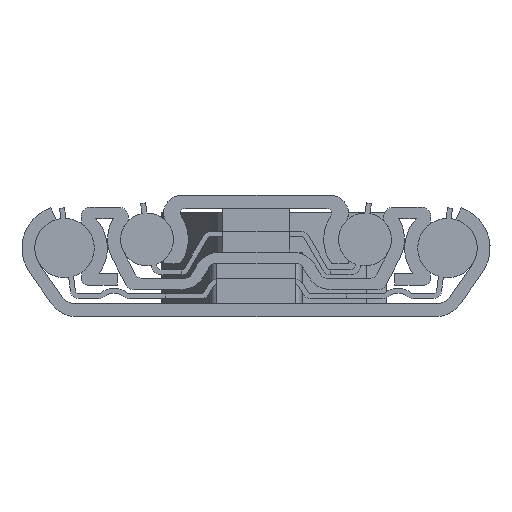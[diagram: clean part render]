
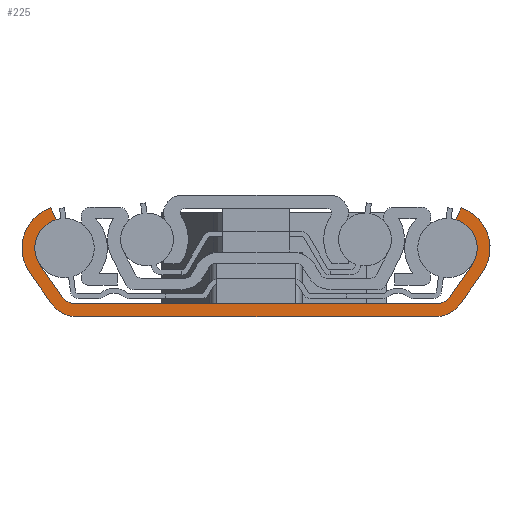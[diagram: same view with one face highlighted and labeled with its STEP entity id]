
A CAD part, left-side view. The second image highlights one B-rep face of the part: STEP entity #225.
In plain terms, the highlighted planar face has unit normal (-1, 0, 0).
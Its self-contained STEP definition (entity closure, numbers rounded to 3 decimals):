
#225 = ADVANCED_FACE( '', ( #571 ), #572, .F. );
#571 = FACE_OUTER_BOUND( '', #1245, .T. );
#572 = PLANE( '', #1246 );
#1245 = EDGE_LOOP( '', ( #2043, #2044, #2045, #2046, #2047, #2048, #2049, #2050, #2051, #2052, #2053, #2054, #2055, #2056, #2057, #2058 ) );
#1246 = AXIS2_PLACEMENT_3D( '', #2059, #2060, #2061 );
#2043 = ORIENTED_EDGE( '', *, *, #4623, .F. );
#2044 = ORIENTED_EDGE( '', *, *, #4632, .T. );
#2045 = ORIENTED_EDGE( '', *, *, #4629, .F. );
#2046 = ORIENTED_EDGE( '', *, *, #4626, .T. );
#2047 = ORIENTED_EDGE( '', *, *, #4572, .F. );
#2048 = ORIENTED_EDGE( '', *, *, #4594, .T. );
#2049 = ORIENTED_EDGE( '', *, *, #4597, .F. );
#2050 = ORIENTED_EDGE( '', *, *, #4600, .T. );
#2051 = ORIENTED_EDGE( '', *, *, #4603, .F. );
#2052 = ORIENTED_EDGE( '', *, *, #4606, .F. );
#2053 = ORIENTED_EDGE( '', *, *, #4609, .F. );
#2054 = ORIENTED_EDGE( '', *, *, #4612, .F. );
#2055 = ORIENTED_EDGE( '', *, *, #4587, .F. );
#2056 = ORIENTED_EDGE( '', *, *, #4614, .F. );
#2057 = ORIENTED_EDGE( '', *, *, #4617, .F. );
#2058 = ORIENTED_EDGE( '', *, *, #4620, .F. );
#2059 = CARTESIAN_POINT( '', ( 0., -29., 10.4 ) );
#2060 = DIRECTION( '', ( 1., 0., 0. ) );
#2061 = DIRECTION( '', ( 0., 0., -1. ) );
#4572 = EDGE_CURVE( '', #5480, #5481, #5482, .T. );
#4587 = EDGE_CURVE( '', #5508, #5509, #5510, .T. );
#4594 = EDGE_CURVE( '', #5480, #5521, #5522, .T. );
#4597 = EDGE_CURVE( '', #5526, #5521, #5527, .T. );
#4600 = EDGE_CURVE( '', #5526, #5531, #5532, .T. );
#4603 = EDGE_CURVE( '', #5536, #5531, #5537, .T. );
#4606 = EDGE_CURVE( '', #5541, #5536, #5542, .T. );
#4609 = EDGE_CURVE( '', #5546, #5541, #5547, .T. );
#4612 = EDGE_CURVE( '', #5509, #5546, #5551, .T. );
#4614 = EDGE_CURVE( '', #5553, #5508, #5554, .T. );
#4617 = EDGE_CURVE( '', #5558, #5553, #5559, .T. );
#4620 = EDGE_CURVE( '', #5563, #5558, #5564, .T. );
#4623 = EDGE_CURVE( '', #5568, #5563, #5569, .T. );
#4626 = EDGE_CURVE( '', #5573, #5481, #5574, .T. );
#4629 = EDGE_CURVE( '', #5573, #5578, #5579, .T. );
#4632 = EDGE_CURVE( '', #5568, #5578, #5583, .T. );
#5480 = VERTEX_POINT( '', #6964 );
#5481 = VERTEX_POINT( '', #6965 );
#5482 = LINE( '', #6966, #6967 );
#5508 = VERTEX_POINT( '', #7001 );
#5509 = VERTEX_POINT( '', #7002 );
#5510 = LINE( '', #7003, #7004 );
#5521 = VERTEX_POINT( '', #7021 );
#5522 = CIRCLE( '', #7022, 2.25 );
#5526 = VERTEX_POINT( '', #7027 );
#5527 = LINE( '', #7028, #7029 );
#5531 = VERTEX_POINT( '', #7035 );
#5532 = CIRCLE( '', #7036, 4.5 );
#5536 = VERTEX_POINT( '', #7041 );
#5537 = LINE( '', #7042, #7043 );
#5541 = VERTEX_POINT( '', #7049 );
#5542 = CIRCLE( '', #7050, 6.45 );
#5546 = VERTEX_POINT( '', #7055 );
#5547 = LINE( '', #7056, #7057 );
#5551 = CIRCLE( '', #7063, 4.75 );
#5553 = VERTEX_POINT( '', #7065 );
#5554 = CIRCLE( '', #7066, 4.75 );
#5558 = VERTEX_POINT( '', #7071 );
#5559 = LINE( '', #7072, #7073 );
#5563 = VERTEX_POINT( '', #7079 );
#5564 = CIRCLE( '', #7080, 6.45 );
#5568 = VERTEX_POINT( '', #7085 );
#5569 = LINE( '', #7086, #7087 );
#5573 = VERTEX_POINT( '', #7093 );
#5574 = CIRCLE( '', #7094, 2.25 );
#5578 = VERTEX_POINT( '', #7099 );
#5579 = LINE( '', #7100, #7101 );
#5583 = CIRCLE( '', #7107, 4.5 );
#6964 = CARTESIAN_POINT( '', ( 0., 27.44, 2. ) );
#6965 = CARTESIAN_POINT( '', ( 0., -27.44, 2. ) );
#6966 = CARTESIAN_POINT( '', ( 0., 27.44, 2. ) );
#6967 = VECTOR( '', #9002, 1000. );
#7001 = CARTESIAN_POINT( '', ( 0., -27.119, 0. ) );
#7002 = CARTESIAN_POINT( '', ( 0., 27.119, 0. ) );
#7003 = CARTESIAN_POINT( '', ( 0., -27.119, 0. ) );
#7004 = VECTOR( '', #9029, 1000. );
#7021 = CARTESIAN_POINT( '', ( 0., 29.284, 2.959 ) );
#7022 = AXIS2_PLACEMENT_3D( '', #9036, #9037, #9038 );
#7027 = CARTESIAN_POINT( '', ( 0., 32.686, 7.819 ) );
#7028 = CARTESIAN_POINT( '', ( 0., 32.686, 7.819 ) );
#7029 = VECTOR( '', #9043, 1000. );
#7035 = CARTESIAN_POINT( '', ( 0., 30.265, 14.719 ) );
#7036 = AXIS2_PLACEMENT_3D( '', #9046, #9047, #9048 );
#7041 = CARTESIAN_POINT( '', ( 0., 31.096, 16.5 ) );
#7042 = CARTESIAN_POINT( '', ( 0., 31.096, 16.5 ) );
#7043 = VECTOR( '', #9053, 1000. );
#7049 = CARTESIAN_POINT( '', ( 0., 34.284, 6.7 ) );
#7050 = AXIS2_PLACEMENT_3D( '', #9056, #9057, #9058 );
#7055 = CARTESIAN_POINT( '', ( 0., 31.01, 2.026 ) );
#7056 = CARTESIAN_POINT( '', ( 0., 31.01, 2.026 ) );
#7057 = VECTOR( '', #9063, 1000. );
#7063 = AXIS2_PLACEMENT_3D( '', #9066, #9067, #9068 );
#7065 = CARTESIAN_POINT( '', ( 0., -31.01, 2.026 ) );
#7066 = AXIS2_PLACEMENT_3D( '', #9072, #9073, #9074 );
#7071 = CARTESIAN_POINT( '', ( 0., -34.284, 6.7 ) );
#7072 = CARTESIAN_POINT( '', ( 0., -34.284, 6.7 ) );
#7073 = VECTOR( '', #9079, 1000. );
#7079 = CARTESIAN_POINT( '', ( 0., -31.096, 16.5 ) );
#7080 = AXIS2_PLACEMENT_3D( '', #9082, #9083, #9084 );
#7085 = CARTESIAN_POINT( '', ( 0., -30.265, 14.719 ) );
#7086 = CARTESIAN_POINT( '', ( 0., -30.265, 14.719 ) );
#7087 = VECTOR( '', #9089, 1000. );
#7093 = CARTESIAN_POINT( '', ( 0., -29.284, 2.959 ) );
#7094 = AXIS2_PLACEMENT_3D( '', #9092, #9093, #9094 );
#7099 = CARTESIAN_POINT( '', ( 0., -32.686, 7.819 ) );
#7100 = CARTESIAN_POINT( '', ( 0., -29.284, 2.959 ) );
#7101 = VECTOR( '', #9099, 1000. );
#7107 = AXIS2_PLACEMENT_3D( '', #9102, #9103, #9104 );
#9002 = DIRECTION( '', ( 0., -1., 0. ) );
#9029 = DIRECTION( '', ( 0., 1., 0. ) );
#9036 = CARTESIAN_POINT( '', ( 0., 27.44, 4.25 ) );
#9037 = DIRECTION( '', ( 1., 0., 0. ) );
#9038 = DIRECTION( '', ( 0., 0., -1. ) );
#9043 = DIRECTION( '', ( 0., -0.574, -0.819 ) );
#9046 = CARTESIAN_POINT( '', ( 0., 29., 10.4 ) );
#9047 = DIRECTION( '', ( 1., 0., 0. ) );
#9048 = DIRECTION( '', ( 0., 0., -1. ) );
#9053 = DIRECTION( '', ( 0., -0.423, -0.906 ) );
#9056 = CARTESIAN_POINT( '', ( 0., 29., 10.4 ) );
#9057 = DIRECTION( '', ( 1., 0., 0. ) );
#9058 = DIRECTION( '', ( 0., 0., -1. ) );
#9063 = DIRECTION( '', ( 0., 0.574, 0.819 ) );
#9066 = CARTESIAN_POINT( '', ( 0., 27.119, 4.75 ) );
#9067 = DIRECTION( '', ( 1., 0., 0. ) );
#9068 = DIRECTION( '', ( 0., 0., -1. ) );
#9072 = CARTESIAN_POINT( '', ( 0., -27.119, 4.75 ) );
#9073 = DIRECTION( '', ( 1., 0., 0. ) );
#9074 = DIRECTION( '', ( 0., 0., -1. ) );
#9079 = DIRECTION( '', ( 0., 0.574, -0.819 ) );
#9082 = CARTESIAN_POINT( '', ( 0., -29., 10.4 ) );
#9083 = DIRECTION( '', ( 1., 0., 0. ) );
#9084 = DIRECTION( '', ( 0., 0., -1. ) );
#9089 = DIRECTION( '', ( 0., -0.423, 0.906 ) );
#9092 = CARTESIAN_POINT( '', ( 0., -27.44, 4.25 ) );
#9093 = DIRECTION( '', ( 1., 0., 0. ) );
#9094 = DIRECTION( '', ( 0., 0., -1. ) );
#9099 = DIRECTION( '', ( 0., -0.574, 0.819 ) );
#9102 = CARTESIAN_POINT( '', ( 0., -29., 10.4 ) );
#9103 = DIRECTION( '', ( 1., 0., 0. ) );
#9104 = DIRECTION( '', ( 0., 0., -1. ) );
